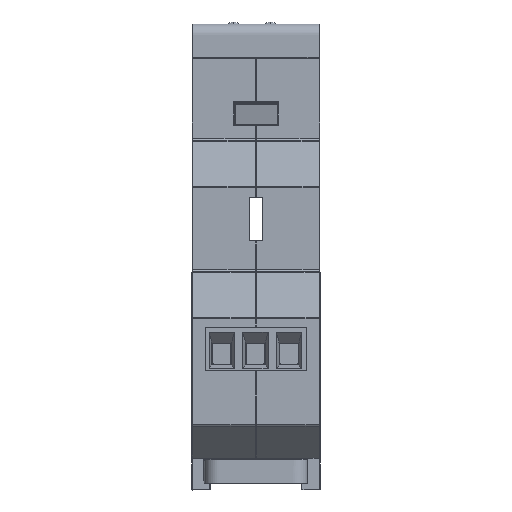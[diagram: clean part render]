
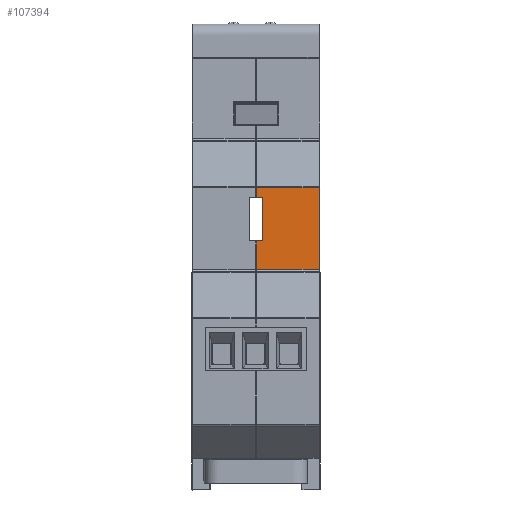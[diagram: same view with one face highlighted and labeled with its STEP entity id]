
A CAD part, front view. The second image highlights one B-rep face of the part: STEP entity #107394.
In plain terms, the highlighted planar face has unit normal (-0.001, -1, 0).
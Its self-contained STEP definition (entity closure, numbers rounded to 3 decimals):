
#1462 = B_SPLINE_CURVE_WITH_KNOTS ( 'NONE', 3,
 ( #77690, #88003, #118791, #57468 ),
 .UNSPECIFIED., .F., .F.,
 ( 4, 4 ),
 ( 0., 1. ),
 .UNSPECIFIED. ) ;
#2396 = ORIENTED_EDGE ( 'NONE', *, *, #14431, .T. ) ;
#3030 = B_SPLINE_CURVE_WITH_KNOTS ( 'NONE', 3,
 ( #68447, #7037, #68888, #7469 ),
 .UNSPECIFIED., .F., .F.,
 ( 4, 4 ),
 ( 0., 1. ),
 .UNSPECIFIED. ) ;
#4542 = CARTESIAN_POINT ( 'NONE',  ( 17.461, -33.61, 37.356 ) ) ;
#5091 = ORIENTED_EDGE ( 'NONE', *, *, #39769, .T. ) ;
#6493 = ORIENTED_EDGE ( 'NONE', *, *, #84189, .T. ) ;
#7037 = CARTESIAN_POINT ( 'NONE',  ( 8.781, -33.605, 28.62 ) ) ;
#7469 = CARTESIAN_POINT ( 'NONE',  ( 8.781, -33.605, 26. ) ) ;
#14431 = EDGE_CURVE ( 'NONE', #110994, #132384, #16374, .T. ) ;
#14856 = CARTESIAN_POINT ( 'NONE',  ( 8.781, -33.605, 37.356 ) ) ;
#16374 = B_SPLINE_CURVE_WITH_KNOTS ( 'NONE', 3,
 ( #38066, #27714, #99074, #109753 ),
 .UNSPECIFIED., .F., .F.,
 ( 4, 4 ),
 ( 0., 1. ),
 .UNSPECIFIED. ) ;
#17504 = VERTEX_POINT ( 'NONE', #23884 ) ;
#18594 = VERTEX_POINT ( 'NONE', #65638 ) ;
#23088 = CARTESIAN_POINT ( 'NONE',  ( 8.781, -33.605, 29.93 ) ) ;
#23867 = B_SPLINE_CURVE_WITH_KNOTS ( 'NONE', 3,
 ( #84558, #74266, #93547, #23088 ),
 .UNSPECIFIED., .F., .F.,
 ( 4, 4 ),
 ( 0., 1. ),
 .UNSPECIFIED. ) ;
#23884 = CARTESIAN_POINT ( 'NONE',  ( 8.781, -33.605, 26. ) ) ;
#26875 = CARTESIAN_POINT ( 'NONE',  ( 9.661, -33.606, 29.93 ) ) ;
#27714 = CARTESIAN_POINT ( 'NONE',  ( 9.074, -33.605, 35.93 ) ) ;
#27796 = CARTESIAN_POINT ( 'NONE',  ( 8.781, -33.605, 36.881 ) ) ;
#31409 = CARTESIAN_POINT ( 'NONE',  ( 8.781, -33.605, 26. ) ) ;
#31846 = EDGE_CURVE ( 'NONE', #75522, #91341, #23867, .T. ) ;
#33769 = EDGE_CURVE ( 'NONE', #132384, #75522, #92000, .T. ) ;
#34982 = B_SPLINE_CURVE_WITH_KNOTS ( 'NONE', 3,
 ( #4542, #127227, #85695, #14856 ),
 .UNSPECIFIED., .F., .F.,
 ( 4, 4 ),
 ( 0., 1. ),
 .UNSPECIFIED. ) ;
#38066 = CARTESIAN_POINT ( 'NONE',  ( 8.781, -33.605, 35.93 ) ) ;
#38822 = CARTESIAN_POINT ( 'NONE',  ( 17.521, -33.61, 37.4 ) ) ;
#39769 = EDGE_CURVE ( 'NONE', #46464, #88589, #34982, .T. ) ;
#45698 = FACE_OUTER_BOUND ( 'NONE', #79272, .T. ) ;
#46464 = VERTEX_POINT ( 'NONE', #53067 ) ;
#48465 = CARTESIAN_POINT ( 'NONE',  ( 8.781, -33.605, 35.93 ) ) ;
#49128 = DIRECTION ( 'NONE',  ( -0.001, -1., 0. ) ) ;
#49543 = CARTESIAN_POINT ( 'NONE',  ( 8.781, -33.605, 29.93 ) ) ;
#50776 = CARTESIAN_POINT ( 'NONE',  ( 8.781, -33.605, 37.356 ) ) ;
#51517 = ORIENTED_EDGE ( 'NONE', *, *, #31846, .T. ) ;
#52059 = CARTESIAN_POINT ( 'NONE',  ( 17.461, -33.61, 26. ) ) ;
#53067 = CARTESIAN_POINT ( 'NONE',  ( 17.461, -33.61, 37.356 ) ) ;
#56382 = CARTESIAN_POINT ( 'NONE',  ( 9.661, -33.606, 35.93 ) ) ;
#57468 = CARTESIAN_POINT ( 'NONE',  ( 17.461, -33.61, 37.356 ) ) ;
#58335 = CARTESIAN_POINT ( 'NONE',  ( 8.781, -33.605, 37.356 ) ) ;
#65159 = EDGE_CURVE ( 'NONE', #91341, #17504, #3030, .T. ) ;
#65638 = CARTESIAN_POINT ( 'NONE',  ( 17.461, -33.61, 26. ) ) ;
#67778 = CARTESIAN_POINT ( 'NONE',  ( 9.661, -33.606, 33.93 ) ) ;
#68447 = CARTESIAN_POINT ( 'NONE',  ( 8.781, -33.605, 29.93 ) ) ;
#68888 = CARTESIAN_POINT ( 'NONE',  ( 8.781, -33.605, 27.31 ) ) ;
#70262 = ORIENTED_EDGE ( 'NONE', *, *, #33769, .T. ) ;
#70287 = ORIENTED_EDGE ( 'NONE', *, *, #74703, .T. ) ;
#74266 = CARTESIAN_POINT ( 'NONE',  ( 9.367, -33.605, 29.93 ) ) ;
#74703 = EDGE_CURVE ( 'NONE', #17504, #18594, #107243, .T. ) ;
#75522 = VERTEX_POINT ( 'NONE', #108562 ) ;
#77690 = CARTESIAN_POINT ( 'NONE',  ( 17.461, -33.61, 26. ) ) ;
#78085 = CARTESIAN_POINT ( 'NONE',  ( 9.661, -33.606, 35.93 ) ) ;
#79272 = EDGE_LOOP ( 'NONE', ( #90520, #70287, #99735, #5091, #6493, #2396, #70262, #51517 ) ) ;
#84189 = EDGE_CURVE ( 'NONE', #88589, #110994, #126127, .T. ) ;
#84558 = CARTESIAN_POINT ( 'NONE',  ( 9.661, -33.606, 29.93 ) ) ;
#85695 = CARTESIAN_POINT ( 'NONE',  ( 11.674, -33.607, 37.356 ) ) ;
#88003 = CARTESIAN_POINT ( 'NONE',  ( 17.461, -33.61, 29.785 ) ) ;
#88394 = CARTESIAN_POINT ( 'NONE',  ( 9.661, -33.606, 31.93 ) ) ;
#88589 = VERTEX_POINT ( 'NONE', #50776 ) ;
#89963 = PLANE ( 'NONE',  #92655 ) ;
#90520 = ORIENTED_EDGE ( 'NONE', *, *, #65159, .T. ) ;
#91341 = VERTEX_POINT ( 'NONE', #49543 ) ;
#92000 = B_SPLINE_CURVE_WITH_KNOTS ( 'NONE', 3,
 ( #78085, #67778, #88394, #26875 ),
 .UNSPECIFIED., .F., .F.,
 ( 4, 4 ),
 ( 0., 1. ),
 .UNSPECIFIED. ) ;
#92655 = AXIS2_PLACEMENT_3D ( 'NONE', #38822, #49128, #120771 ) ;
#93547 = CARTESIAN_POINT ( 'NONE',  ( 9.074, -33.605, 29.93 ) ) ;
#99074 = CARTESIAN_POINT ( 'NONE',  ( 9.367, -33.605, 35.93 ) ) ;
#99735 = ORIENTED_EDGE ( 'NONE', *, *, #124966, .T. ) ;
#102864 = CARTESIAN_POINT ( 'NONE',  ( 8.781, -33.605, 35.93 ) ) ;
#107243 = B_SPLINE_CURVE_WITH_KNOTS ( 'NONE', 3,
 ( #31409, #112960, #113404, #52059 ),
 .UNSPECIFIED., .F., .F.,
 ( 4, 4 ),
 ( 0., 1. ),
 .UNSPECIFIED. ) ;
#107394 = ADVANCED_FACE ( 'NONE', ( #45698 ), #89963, .T. ) ;
#108562 = CARTESIAN_POINT ( 'NONE',  ( 9.661, -33.606, 29.93 ) ) ;
#109753 = CARTESIAN_POINT ( 'NONE',  ( 9.661, -33.606, 35.93 ) ) ;
#109833 = CARTESIAN_POINT ( 'NONE',  ( 8.781, -33.605, 36.405 ) ) ;
#110994 = VERTEX_POINT ( 'NONE', #102864 ) ;
#112960 = CARTESIAN_POINT ( 'NONE',  ( 11.674, -33.607, 26. ) ) ;
#113404 = CARTESIAN_POINT ( 'NONE',  ( 14.567, -33.608, 26. ) ) ;
#118791 = CARTESIAN_POINT ( 'NONE',  ( 17.461, -33.61, 33.571 ) ) ;
#120771 = DIRECTION ( 'NONE',  ( -1., 0.001, 0. ) ) ;
#124966 = EDGE_CURVE ( 'NONE', #18594, #46464, #1462, .T. ) ;
#126127 = B_SPLINE_CURVE_WITH_KNOTS ( 'NONE', 3,
 ( #58335, #27796, #109833, #48465 ),
 .UNSPECIFIED., .F., .F.,
 ( 4, 4 ),
 ( 0., 1. ),
 .UNSPECIFIED. ) ;
#127227 = CARTESIAN_POINT ( 'NONE',  ( 14.567, -33.608, 37.356 ) ) ;
#132384 = VERTEX_POINT ( 'NONE', #56382 ) ;
